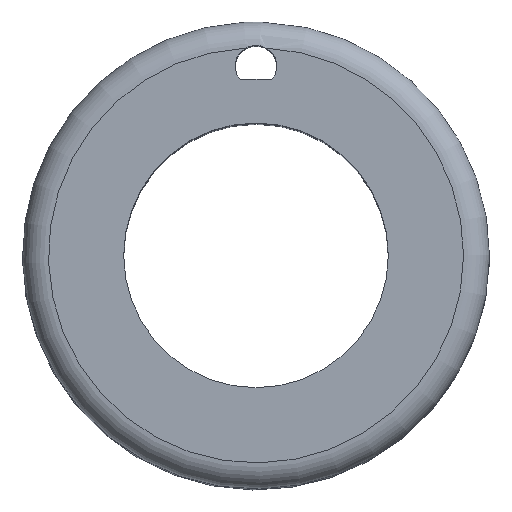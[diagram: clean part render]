
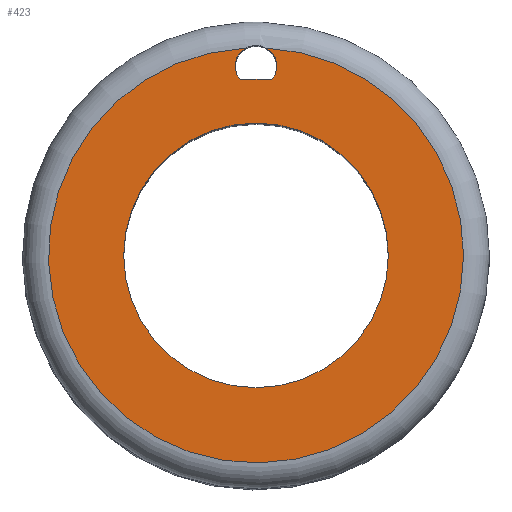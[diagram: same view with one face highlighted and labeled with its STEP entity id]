
A CAD part, top view. The second image highlights one B-rep face of the part: STEP entity #423.
In plain terms, the highlighted planar face has unit normal (0, 0, 1).
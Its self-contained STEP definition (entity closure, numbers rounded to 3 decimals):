
#36=FACE_BOUND('',#129,.T.);
#79=PLANE('',#512);
#101=FACE_OUTER_BOUND('',#128,.T.);
#128=EDGE_LOOP('',(#391,#392,#393,#394,#395));
#129=EDGE_LOOP('',(#396));
#160=CIRCLE('',#499,0.8);
#161=CIRCLE('',#500,0.8);
#164=CIRCLE('',#504,8.);
#165=CIRCLE('',#505,8.);
#167=CIRCLE('',#508,5.1);
#168=CIRCLE('',#511,6.8);
#208=VERTEX_POINT('',#826);
#209=VERTEX_POINT('',#828);
#210=VERTEX_POINT('',#830);
#211=VERTEX_POINT('',#839);
#215=VERTEX_POINT('',#859);
#216=VERTEX_POINT('',#865);
#262=EDGE_CURVE('',#208,#209,#160,.T.);
#264=EDGE_CURVE('',#210,#211,#161,.T.);
#271=EDGE_CURVE('',#215,#210,#164,.T.);
#272=EDGE_CURVE('',#209,#215,#165,.T.);
#275=EDGE_CURVE('',#216,#216,#167,.T.);
#276=EDGE_CURVE('',#208,#211,#168,.T.);
#391=ORIENTED_EDGE('',*,*,#272,.F.);
#392=ORIENTED_EDGE('',*,*,#262,.F.);
#393=ORIENTED_EDGE('',*,*,#276,.T.);
#394=ORIENTED_EDGE('',*,*,#264,.F.);
#395=ORIENTED_EDGE('',*,*,#271,.F.);
#396=ORIENTED_EDGE('',*,*,#275,.T.);
#423=ADVANCED_FACE('',(#101,#36),#79,.T.);
#499=AXIS2_PLACEMENT_3D('',#829,#625,#626);
#500=AXIS2_PLACEMENT_3D('',#840,#627,#628);
#504=AXIS2_PLACEMENT_3D('',#861,#638,#639);
#505=AXIS2_PLACEMENT_3D('',#862,#640,#641);
#508=AXIS2_PLACEMENT_3D('',#867,#647,#648);
#511=AXIS2_PLACEMENT_3D('',#870,#653,#654);
#512=AXIS2_PLACEMENT_3D('',#871,#655,#656);
#625=DIRECTION('center_axis',(0.,0.,1.));
#626=DIRECTION('ref_axis',(1.,0.,0.));
#627=DIRECTION('center_axis',(0.,0.,1.));
#628=DIRECTION('ref_axis',(1.,0.,0.));
#638=DIRECTION('center_axis',(0.,0.,-1.));
#639=DIRECTION('ref_axis',(1.,0.,0.));
#640=DIRECTION('center_axis',(0.,0.,-1.));
#641=DIRECTION('ref_axis',(1.,0.,0.));
#647=DIRECTION('center_axis',(0.,0.,-1.));
#648=DIRECTION('ref_axis',(1.,0.,0.));
#653=DIRECTION('center_axis',(0.,0.,1.));
#654=DIRECTION('ref_axis',(1.,0.,0.));
#655=DIRECTION('center_axis',(0.,0.,1.));
#656=DIRECTION('ref_axis',(1.,0.,0.));
#826=CARTESIAN_POINT('',(0.602,6.773,27.));
#828=CARTESIAN_POINT('',(0.405,7.99,27.));
#829=CARTESIAN_POINT('Origin',(0.,7.3,27.));
#830=CARTESIAN_POINT('',(-0.405,7.99,27.));
#839=CARTESIAN_POINT('',(-0.602,6.773,27.));
#840=CARTESIAN_POINT('Origin',(0.,7.3,27.));
#859=CARTESIAN_POINT('',(8.,0.,27.));
#861=CARTESIAN_POINT('Origin',(0.,0.,27.));
#862=CARTESIAN_POINT('Origin',(0.,0.,27.));
#865=CARTESIAN_POINT('',(-5.1,0.,27.));
#867=CARTESIAN_POINT('Origin',(0.,0.,27.));
#870=CARTESIAN_POINT('Origin',(0.,0.,27.));
#871=CARTESIAN_POINT('Origin',(0.,0.,27.));
